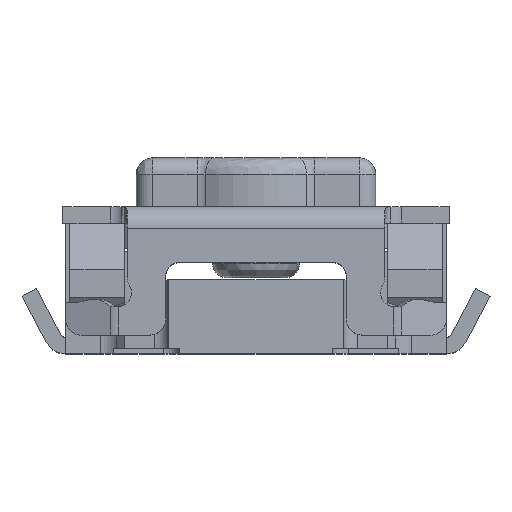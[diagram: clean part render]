
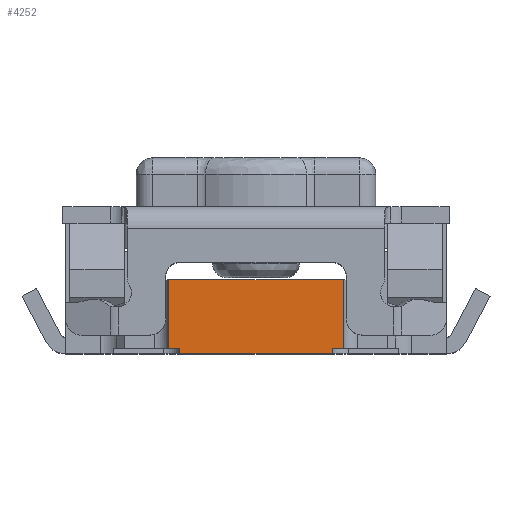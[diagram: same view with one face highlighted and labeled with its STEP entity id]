
A CAD part, top view. The second image highlights one B-rep face of the part: STEP entity #4252.
In plain terms, the highlighted planar face has unit normal (0, 0, 1).
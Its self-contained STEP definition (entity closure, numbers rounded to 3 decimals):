
#287 = CARTESIAN_POINT ( 'NONE',  ( -0.8, -1.3, 1.44 ) ) ;
#899 = VECTOR ( 'NONE', #2706, 1000. ) ;
#1100 = CARTESIAN_POINT ( 'NONE',  ( 1.775, -1.35, 1.44 ) ) ;
#1197 = CARTESIAN_POINT ( 'NONE',  ( -0.7, -1.33, 1.44 ) ) ;
#1551 = LINE ( 'NONE', #5884, #12866 ) ;
#1621 = EDGE_CURVE ( 'NONE', #16990, #3422, #21595, .T. ) ;
#2120 = ORIENTED_EDGE ( 'NONE', *, *, #24275, .T. ) ;
#2484 = VERTEX_POINT ( 'NONE', #6439 ) ;
#2706 = DIRECTION ( 'NONE',  ( -1., 0., 0. ) ) ;
#2883 = EDGE_CURVE ( 'NONE', #3422, #20844, #9798, .T. ) ;
#3422 = VERTEX_POINT ( 'NONE', #12331 ) ;
#3968 = CARTESIAN_POINT ( 'NONE',  ( 0.7, -1.35, 1.44 ) ) ;
#4076 = CARTESIAN_POINT ( 'NONE',  ( -0.8, -0.67, 1.44 ) ) ;
#4252 = ADVANCED_FACE ( 'NONE', ( #18640 ), #4455, .F. ) ;
#4455 = PLANE ( 'NONE',  #20967 ) ;
#5483 = ORIENTED_EDGE ( 'NONE', *, *, #18704, .F. ) ;
#5546 = VECTOR ( 'NONE', #10838, 1000. ) ;
#5884 = CARTESIAN_POINT ( 'NONE',  ( 0.7, -1.33, 1.44 ) ) ;
#6439 = CARTESIAN_POINT ( 'NONE',  ( -0.7, -1.3, 1.44 ) ) ;
#6465 = LINE ( 'NONE', #6845, #21723 ) ;
#6845 = CARTESIAN_POINT ( 'NONE',  ( -0.8, -1.3, 1.44 ) ) ;
#7143 = VERTEX_POINT ( 'NONE', #12491 ) ;
#7783 = VERTEX_POINT ( 'NONE', #3968 ) ;
#8659 = LINE ( 'NONE', #24256, #5546 ) ;
#9137 = EDGE_CURVE ( 'NONE', #7143, #16990, #8659, .T. ) ;
#9798 = LINE ( 'NONE', #24899, #12780 ) ;
#9856 = VECTOR ( 'NONE', #17767, 1000. ) ;
#10569 = CARTESIAN_POINT ( 'NONE',  ( 0.7, -1.3, 1.44 ) ) ;
#10663 = ORIENTED_EDGE ( 'NONE', *, *, #1621, .F. ) ;
#10715 = DIRECTION ( 'NONE',  ( 0., 0., -1. ) ) ;
#10838 = DIRECTION ( 'NONE',  ( 0., 1., 0. ) ) ;
#11046 = LINE ( 'NONE', #1100, #19494 ) ;
#11247 = CARTESIAN_POINT ( 'NONE',  ( -0.7, -1.35, 1.44 ) ) ;
#12331 = CARTESIAN_POINT ( 'NONE',  ( 0.8, -0.67, 1.44 ) ) ;
#12491 = CARTESIAN_POINT ( 'NONE',  ( -0.8, -1.3, 1.44 ) ) ;
#12780 = VECTOR ( 'NONE', #21314, 1000. ) ;
#12866 = VECTOR ( 'NONE', #19435, 1000. ) ;
#13546 = ORIENTED_EDGE ( 'NONE', *, *, #18176, .F. ) ;
#13804 = EDGE_LOOP ( 'NONE', ( #17958, #20782, #10663, #21228, #22697, #5483, #13546, #2120 ) ) ;
#14597 = VECTOR ( 'NONE', #22654, 1000. ) ;
#14739 = LINE ( 'NONE', #1197, #14597 ) ;
#15421 = VERTEX_POINT ( 'NONE', #11247 ) ;
#16475 = DIRECTION ( 'NONE',  ( 0., -1., 0. ) ) ;
#16990 = VERTEX_POINT ( 'NONE', #19403 ) ;
#17767 = DIRECTION ( 'NONE',  ( 1., 0., 0. ) ) ;
#17958 = ORIENTED_EDGE ( 'NONE', *, *, #20015, .F. ) ;
#18128 = CARTESIAN_POINT ( 'NONE',  ( -0.8, 3.25, 1.44 ) ) ;
#18176 = EDGE_CURVE ( 'NONE', #7783, #15421, #11046, .T. ) ;
#18640 = FACE_OUTER_BOUND ( 'NONE', #13804, .T. ) ;
#18704 = EDGE_CURVE ( 'NONE', #15421, #2484, #14739, .T. ) ;
#19403 = CARTESIAN_POINT ( 'NONE',  ( -0.8, -0.67, 1.44 ) ) ;
#19435 = DIRECTION ( 'NONE',  ( 0., 1., 0. ) ) ;
#19494 = VECTOR ( 'NONE', #22557, 1000. ) ;
#19889 = CARTESIAN_POINT ( 'NONE',  ( 0.8, -1.3, 1.44 ) ) ;
#20015 = EDGE_CURVE ( 'NONE', #20844, #23162, #23790, .T. ) ;
#20782 = ORIENTED_EDGE ( 'NONE', *, *, #2883, .F. ) ;
#20844 = VERTEX_POINT ( 'NONE', #19889 ) ;
#20967 = AXIS2_PLACEMENT_3D ( 'NONE', #18128, #10715, #16475 ) ;
#21037 = EDGE_CURVE ( 'NONE', #2484, #7143, #6465, .T. ) ;
#21228 = ORIENTED_EDGE ( 'NONE', *, *, #9137, .F. ) ;
#21314 = DIRECTION ( 'NONE',  ( 0., -1., 0. ) ) ;
#21595 = LINE ( 'NONE', #4076, #9856 ) ;
#21723 = VECTOR ( 'NONE', #24102, 1000. ) ;
#22557 = DIRECTION ( 'NONE',  ( -1., 0., 0. ) ) ;
#22654 = DIRECTION ( 'NONE',  ( 0., 1., 0. ) ) ;
#22697 = ORIENTED_EDGE ( 'NONE', *, *, #21037, .F. ) ;
#23162 = VERTEX_POINT ( 'NONE', #10569 ) ;
#23790 = LINE ( 'NONE', #287, #899 ) ;
#24102 = DIRECTION ( 'NONE',  ( -1., 0., 0. ) ) ;
#24256 = CARTESIAN_POINT ( 'NONE',  ( -0.8, 3.25, 1.44 ) ) ;
#24275 = EDGE_CURVE ( 'NONE', #7783, #23162, #1551, .T. ) ;
#24899 = CARTESIAN_POINT ( 'NONE',  ( 0.8, 3.25, 1.44 ) ) ;
